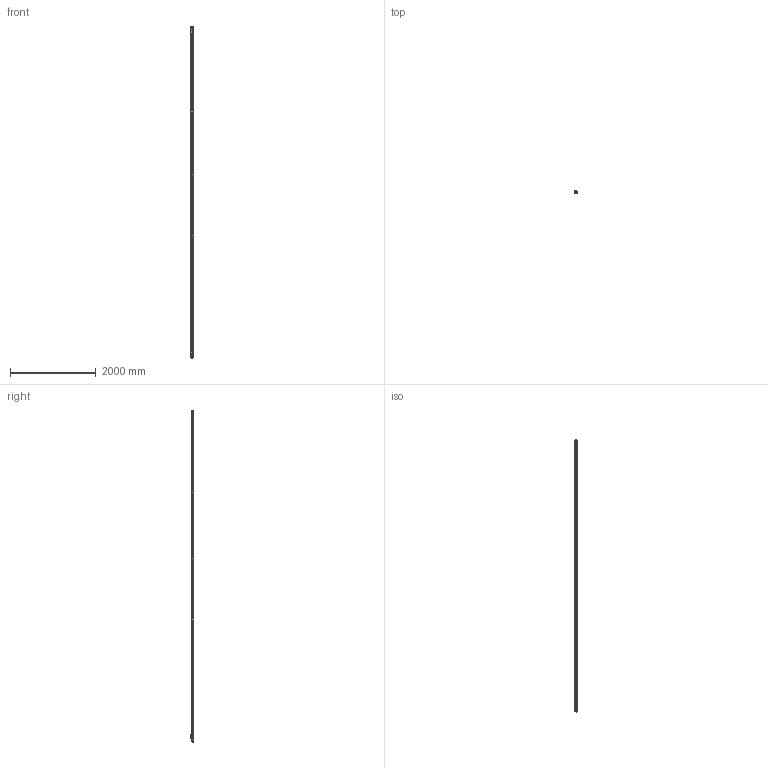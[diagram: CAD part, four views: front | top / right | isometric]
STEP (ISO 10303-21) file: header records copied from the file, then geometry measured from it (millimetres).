
FILE_DESCRIPTION(('Creo Elements/Direct Modeling STEP Export'),'2;1');
FILE_NAME('L-74.stp','2011-11-30T13:17:07',(''),(''),'Creo Elements/Direct Modeling STEP processor for AP214 (Solid Model)','Creo Elements/Direct Modeling 17.0C 05-Feb-2011 (C) Parametric Technology GmbH','');
FILE_SCHEMA(('AUTOMOTIVE_DESIGN { 1 0 10303 214 1 1 1 1 }'));
Length unit declared in the file: millimetre
Products named in the file (5): Modulo_izq_(L-KT); Modulos_intermedio_(FL-14); CABEZA; Modulo_der_(18-ET); L-74
Assembly tree (6 placements, depth 2):
  L-74
    Modulos_intermedio_(FL-14)  x3
    Modulo_der_(18-ET)
    CABEZA
    Modulo_izq_(L-KT)
Bounding box: 51.5 x 87.95 x 7749.1 mm (x, y, z)
Volume: 14440175.5 mm3; surface area: 2318522.9 mm2
Topology: 27 solids, 88 shells, 4565 faces, 12616 edges, 8121 vertices
Faces by surface type: cylinder 2027, plane 1840, cone 318, torus 198, bspline 116, extrusion 40, sphere 26
Entity records: 129266 total; most frequent: CARTESIAN_POINT 37594, ORIENTED_EDGE 19362, DIRECTION 17294, EDGE_CURVE 9661, VERTEX_POINT 6263, AXIS2_PLACEMENT_3D 6143, VECTOR 5008, LINE 4988
